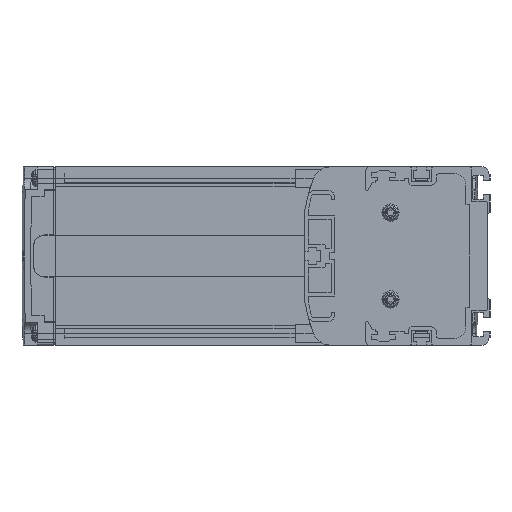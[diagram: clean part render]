
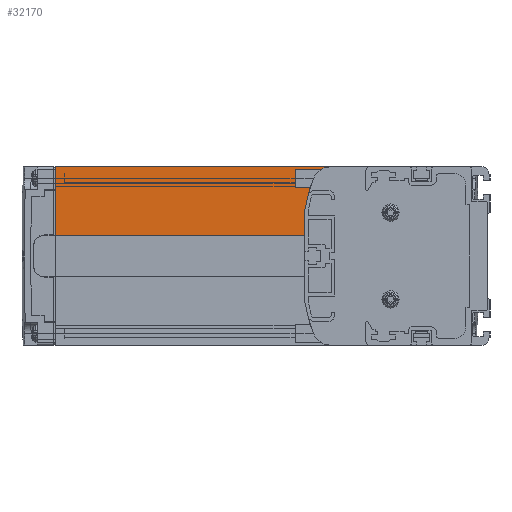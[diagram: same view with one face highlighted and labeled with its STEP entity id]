
A CAD part, left-side view. The second image highlights one B-rep face of the part: STEP entity #32170.
In plain terms, the highlighted planar face has unit normal (-1, 0, 0).
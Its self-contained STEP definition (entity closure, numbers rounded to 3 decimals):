
#5252=CARTESIAN_POINT('',(3.,79.,19.823));
#5253=DIRECTION('',(1.,0.,0.));
#5254=DIRECTION('',(0.,1.,0.));
#5255=AXIS2_PLACEMENT_3D('',#5252,#5253,#5254);
#5273=DIRECTION('',(0.,0.,-1.));
#5274=VECTOR('',#5273,10.723);
#5275=CARTESIAN_POINT('',(3.,81.,19.823));
#5276=LINE('',#5275,#5274);
#5657=CARTESIAN_POINT('',(3.,2.235,6.));
#5658=DIRECTION('',(1.,0.,0.));
#5659=DIRECTION('',(0.,0.984,0.177));
#5660=AXIS2_PLACEMENT_3D('',#5657,#5658,#5659);
#5670=DIRECTION('',(0.,0.,-1.));
#5671=VECTOR('',#5670,29.9);
#5672=CARTESIAN_POINT('',(3.,190.,39.));
#5673=LINE('',#5672,#5671);
#7745=DIRECTION('',(0.,-1.,0.));
#7746=VECTOR('',#7745,109.);
#7747=CARTESIAN_POINT('',(3.,190.,9.1));
#7748=LINE('',#7747,#7746);
#10537=DIRECTION('',(0.,-1.,0.));
#10538=VECTOR('',#10537,120.245);
#10539=CARTESIAN_POINT('',(3.,190.,39.));
#10540=LINE('',#10539,#10538);
#11612=CARTESIAN_POINT('',(3.,69.755,31.));
#11613=DIRECTION('',(-1.,0.,0.));
#11614=DIRECTION('',(0.,0.,1.));
#11615=AXIS2_PLACEMENT_3D('',#11612,#11613,#11614);
#19512=CARTESIAN_POINT('',(3.,190.,39.));
#19513=VERTEX_POINT('',#19512);
#19514=CARTESIAN_POINT('',(3.,190.,9.1));
#19515=VERTEX_POINT('',#19514);
#23903=CARTESIAN_POINT('',(3.,81.,9.1));
#23904=VERTEX_POINT('',#23903);
#23945=CARTESIAN_POINT('',(3.,69.755,39.));
#23946=CARTESIAN_POINT('',(3.,77.257,33.778));
#23947=VERTEX_POINT('',#23945);
#23948=VERTEX_POINT('',#23946);
#23949=CARTESIAN_POINT('',(3.,80.968,20.177));
#23950=VERTEX_POINT('',#23949);
#23951=CARTESIAN_POINT('',(3.,81.,19.823));
#23952=VERTEX_POINT('',#23951);
#32152=CARTESIAN_POINT('',(3.,105.,24.05));
#32153=DIRECTION('',(1.,0.,0.));
#32154=DIRECTION('',(0.,0.,1.));
#32155=AXIS2_PLACEMENT_3D('',#32152,#32153,#32154);
#32156=PLANE('',#32155);
#32158=ORIENTED_EDGE('',*,*,#32157,.T.);
#32159=ORIENTED_EDGE('',*,*,#32104,.F.);
#32160=ORIENTED_EDGE('',*,*,#31533,.F.);
#32161=ORIENTED_EDGE('',*,*,#31551,.T.);
#32163=ORIENTED_EDGE('',*,*,#32162,.F.);
#32165=ORIENTED_EDGE('',*,*,#32164,.F.);
#32167=ORIENTED_EDGE('',*,*,#32166,.T.);
#32168=EDGE_LOOP('',(#32158,#32159,#32160,#32161,#32163,#32165,#32167));
#32169=FACE_OUTER_BOUND('',#32168,.F.);
#32170=ADVANCED_FACE('',(#32169),#32156,.F.);
#5256=CIRCLE('',#5255,2.);
#5661=CIRCLE('',#5660,80.);
#11616=CIRCLE('',#11615,8.);
#31533=EDGE_CURVE('',#23952,#23950,#5256,.T.);
#31551=EDGE_CURVE('',#23952,#23904,#5276,.T.);
#32104=EDGE_CURVE('',#23950,#23948,#5661,.T.);
#32157=EDGE_CURVE('',#23947,#23948,#11616,.T.);
#32162=EDGE_CURVE('',#19515,#23904,#7748,.T.);
#32164=EDGE_CURVE('',#19513,#19515,#5673,.T.);
#32166=EDGE_CURVE('',#19513,#23947,#10540,.T.);
